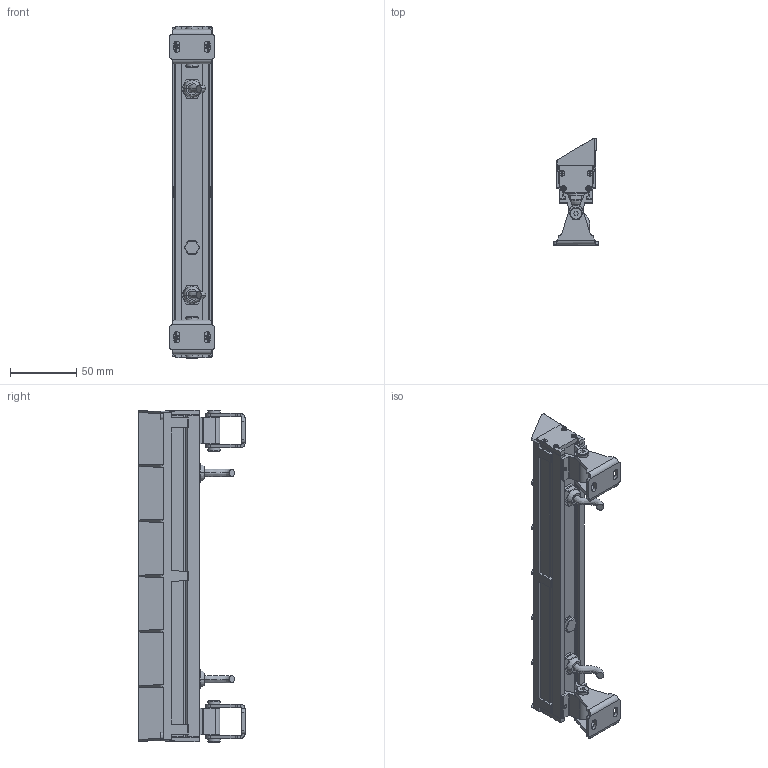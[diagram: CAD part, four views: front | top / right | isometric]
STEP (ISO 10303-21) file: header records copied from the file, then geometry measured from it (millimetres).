
FILE_DESCRIPTION((''),'2;1');
FILE_NAME('B6JD0656_ASM','2023-02-04T',('Administrator'),(''),'CREO PARAMETRIC BY PTC INC, 2015200','CREO PARAMETRIC BY PTC INC, 2015200','');
FILE_SCHEMA(('CONFIG_CONTROL_DESIGN'));
Length unit declared in the file: millimetre
Products named in the file (16): 6JB-06; 6JB-LJB; 6JB-Z; 6J-DP; 6J_ZYG_81_20; SHANGZHIJIA-6J_2; XIAZHIJIA-6J-GAOYA-01_2; M6_BIAN_TOU_TE_ZHI_5_ANY_2; M3WUTOU_2; XINZHIJIA-6J-GAOYA-01_ASM_2_ASM; 6J_A_3D_2018_6_27_; PG7_CU_23_2; PAIQIHUA_1_1_3_1_1; M3X6-YT_2; M2-5; B6JD0656_ASM
Assembly tree (30 placements, depth 3):
  B6JD0656_ASM
    6JB-06
    6JB-LJB
    6JB-Z
    6J-DP  x2
    6J_ZYG_81_20  x2
    XINZHIJIA-6J-GAOYA-01_ASM_2_ASM  x2
      SHANGZHIJIA-6J_2
      XIAZHIJIA-6J-GAOYA-01_2
      M6_BIAN_TOU_TE_ZHI_5_ANY_2
      M3WUTOU_2
    6J_A_3D_2018_6_27_
    PG7_CU_23_2  x2
    PAIQIHUA_1_1_3_1_1
    M3X6-YT_2  x3
    M2-5  x8
Bounding box: 34 x 80.3 x 251.2 mm (x, y, z)
Volume: 127379.4 mm3; surface area: 120466.8 mm2
Topology: 34 solids, 34 shells, 2014 faces, 5085 edges, 3142 vertices
Faces by surface type: plane 1190, cylinder 464, cone 272, bspline 60, torus 16, sphere 6, revolution 4, extrusion 2
Entity records: 33727 total; most frequent: CARTESIAN_POINT 9123, ORIENTED_EDGE 5104, DIRECTION 4931, EDGE_CURVE 2552, VECTOR 1845, LINE 1844, VERTEX_POINT 1655, AXIS2_PLACEMENT_3D 1542
